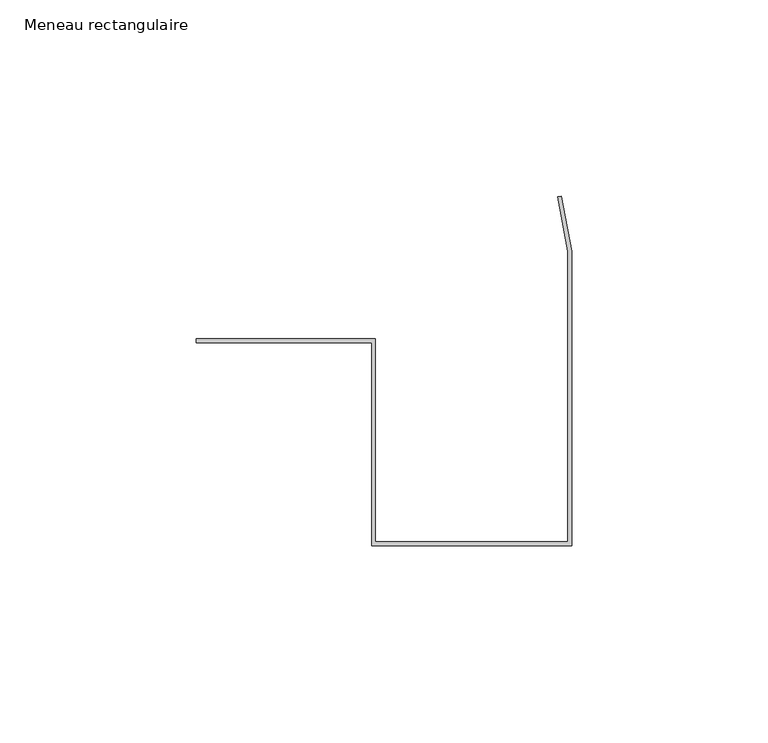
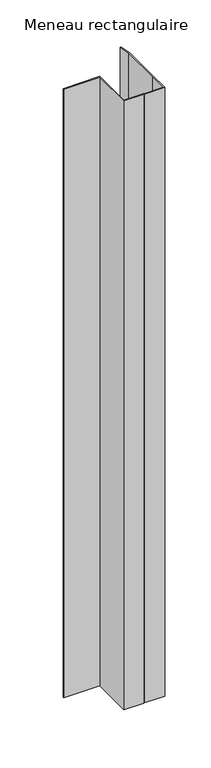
"""IFC4 building model written with IfcOpenShell, lengths in millimetres: member geometry, Meneau rectangulaire : Jonction contre mur Droite H."""

from ifc_helpers import new_model, si_unit, frame, origin, place, context, project, spatial, polyline, outline, extrude, source, transform, mapped, element, save


def meneau_rectangulaire_0b3fcaf2(model_context):
    return source(origin(), model_context, "Body", "SweptSolid", [
        extrude(outline(polyline([(-1.0, 26.3798616), (-3.6043568, 40.2461331), (-2.6384309, 40.4275528), (0.0, 26.3798616), (0.0, -23.6201384), (0.0, -48.6201384), (-25.0, -48.6201384), (-26.0, -48.6201384), (-51.0, -48.6201384), (-51.0, 3.1), (-95.6686418, 3.1), (-95.6686418, 4.1), (-50.0, 4.1), (-50.0, -47.6201384), (-26.0, -47.6201384), (-25.0, -47.6201384), (-1.0, -47.6201384), (-1.0, -23.6201384), (-1.0, 26.3798616)])), frame((0.0, 0.0, -801.0), z_axis=(0.0, 0.0, 1.0), x_axis=(1.0, 0.0, 0.0)), (0.0, 0.0, 1.0), 801.0),
    ])


if __name__ == "__main__":
    model = new_model("IFC4")
    model_context = context("Model", 3, world=origin())
    ifc_project = project(units=[si_unit("LENGTHUNIT", "METRE", prefix="MILLI")], contexts=[model_context])
    site = spatial("IfcSite", under=ifc_project)
    building = spatial("IfcBuilding", under=site)
    placement = place(None, origin())
    meneau_rectangulaire_shape = meneau_rectangulaire_0b3fcaf2(model_context)
    element("IfcMember", 1, ObjectType="Meneau rectangulaire : Jonction contre mur Droite H", at=placement, inside=building, context=model_context, shape_type="MappedRepresentation", body=[
        mapped(meneau_rectangulaire_shape, transform((0.0, 0.0, 0.0), x_axis=(1.0, 0.0, 0.0), y_axis=(0.0, 1.0, 0.0), z_axis=(0.0, 0.0, 1.0))),
    ])
    save(model, "model.ifc")
